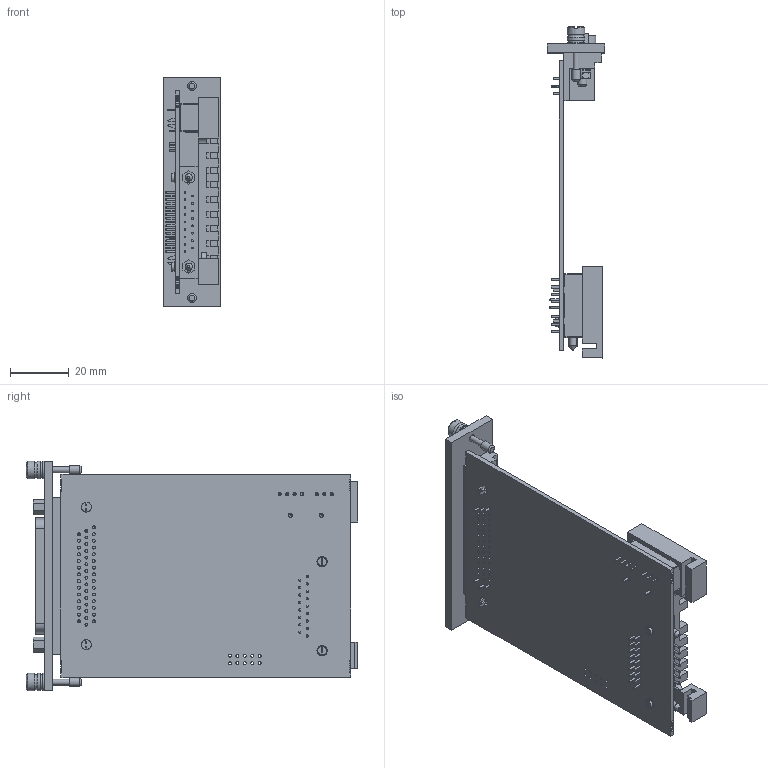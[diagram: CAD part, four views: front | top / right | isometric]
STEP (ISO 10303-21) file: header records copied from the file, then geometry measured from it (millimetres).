
FILE_DESCRIPTION(('STEP AP203'), '1');
FILE_NAME('帎迗.468155.001 沓劌錪 眝3_氈柉301', '', ('UNSPECIFIED'), ('UNSPECIFIED'), 'C3D Converter', 'C3D Toolkit', '');
FILE_SCHEMA(('CONFIG_CONTROL_DESIGN'));
Length unit declared in the file: millimetre
Products named in the file (1): КМНТ.468155.001 СБ
Bounding box: 19.6 x 113.29 x 78.5 mm (x, y, z)
Volume: 32176.5 mm3; surface area: 32259.5 mm2
Topology: 4 solids, 4 shells, 1461 faces, 4006 edges, 2626 vertices
Faces by surface type: plane 706, cylinder 658, cone 42, sphere 36, torus 19
Full cylindrical faces by diameter (mm): 0.6 x43, 0.7 x12, 0.8 x17, 1 x71, 1.1 x7, 1.221 x2, 1.4 x2, 1.6 x8, 1.7 x2, 2 x2, 2.362 x2, 2.459 x2, 2.49 x2, 2.7 x2, 2.8 x2, 3 x6, 3.175 x4, 3.2 x6, 3.4 x4, 3.5 x2, 6 x8
Entity records: 59712 total; most frequent: CARTESIAN_POINT 10552, DIRECTION 7983, ORIENTED_EDGE 7392, EDGE_CURVE 3696, AXIS2_PLACEMENT_3D 2930, VERTEX_POINT 2610, LINE 2123, VECTOR 2123
